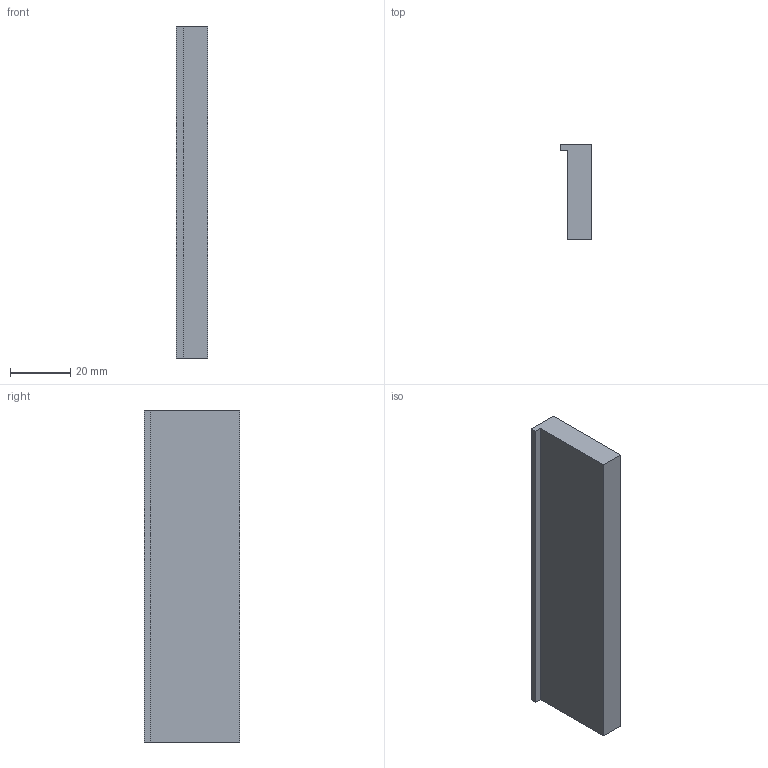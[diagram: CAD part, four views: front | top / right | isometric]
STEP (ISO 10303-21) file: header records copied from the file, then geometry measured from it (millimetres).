
FILE_DESCRIPTION(('Open CASCADE Model'),'2;1');
FILE_NAME('Open CASCADE Shape Model','2026-10-27T20:54:52',('Author'),( 'Open CASCADE'),'Open CASCADE STEP processor 7.9','Open CASCADE 7.9' ,'Unknown');
FILE_SCHEMA(('AUTOMOTIVE_DESIGN { 1 0 10303 214 1 1 1 1 }'));
Length unit declared in the file: millimetre
Products named in the file (1): Open CASCADE STEP translator 7.9 5
Bounding box: 10.4 x 31.6 x 110 mm (x, y, z)
Volume: 28336 mm3; surface area: 9755.2 mm2
Topology: 1 solids, 1 shells, 8 faces, 18 edges, 12 vertices
Faces by surface type: plane 8
Entity records: 466 total; most frequent: CARTESIAN_POINT 75, DIRECTION 72, LINE 54, VECTOR 54, ORIENTED_EDGE 36, PCURVE 36, DEFINITIONAL_REPRESENTATION 36, EDGE_CURVE 18
